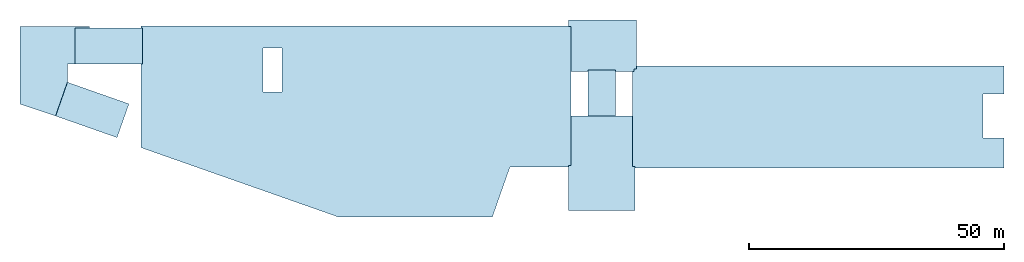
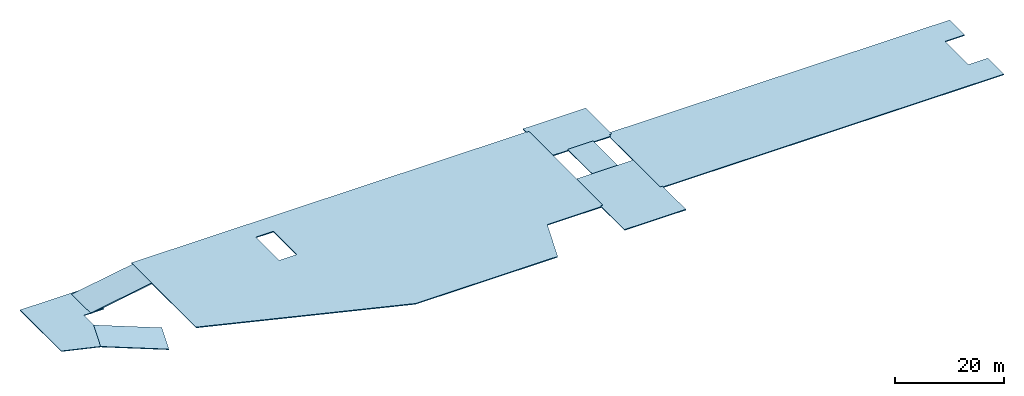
# One storey: 8 slabs.
"""IFC2X3 building model written with IfcOpenShell, lengths in millimetres."""

from ifc_helpers import new_model, si_unit, origin, place, context, project, spatial, faceted_brep, material, element, save


model = new_model("IFC2X3")

# Units and contexts
context_of_model = context(None, 3, precision=1e-05, world=origin())
ifc_project = project(units=[si_unit("LENGTHUNIT", "METRE", prefix="MILLI")], contexts=[context_of_model])

# Building, storey
building = spatial("IfcBuilding", under=ifc_project, Name="Building", CompositionType="ELEMENT")
storey = spatial("IfcBuildingStorey", under=building, Name="FL1-PLT", CompositionType="ELEMENT")

# Slabs
ifc_material_1 = material(Name="C4000")
slab_1_placement = place(None, origin())
element("IfcSlab", 1, at=slab_1_placement, inside=storey, material=ifc_material_1, Name="Floor21", PredefinedType="FLOOR", context=context_of_model, shape_type="Brep", body=[
    faceted_brep([(12000.0, 8100.0, -203.2), (12000.0, 18000.0, -203.2), (12000.0, 18000.0, 0.0), (12000.0, 8100.0, 0.0), (0.0, 18000.0, -203.2), (0.0, 18000.0, 0.0), (0.0, 8300.0, -203.2), (0.0, 8300.0, 0.0), (-500.0, 8300.0, -203.2), (-500.0, 8300.0, 0.0), (-500.0, -500.0, -203.2), (-500.0, -500.0, 0.0), (12500.0, -500.0, -203.2), (12500.0, -500.0, 0.0), (12500.0, 8100.0, -203.2), (12500.0, 8100.0, 0.0)], [[[0, 1, 2, 3]], [[1, 4, 5, 2]], [[4, 6, 7, 5]], [[6, 8, 9, 7]], [[8, 10, 11, 9]], [[10, 12, 13, 11]], [[12, 14, 15, 13]], [[14, 0, 3, 15]], [[3, 2, 5, 7, 9, 11, 13, 15]], [[0, 14, 12, 10, 8, 6, 4, 1]]]),
])
ifc_material_2 = material(Name="C4000")
slab_2_placement = place(None, origin())
element("IfcSlab", 2, at=slab_2_placement, inside=storey, material=ifc_material_2, Name="Floor22", PredefinedType="FLOOR", context=context_of_model, shape_type="Brep", body=[
    faceted_brep([(-500.0, 36804.8, -203.2), (-500.0, 35542.8, -203.2), (-500.0, 35542.8, 0.0), (-500.0, 36804.8, 0.0), (0.0, 35542.8, -203.2), (0.0, 35542.8, 0.0), (0.0, 26695.2, -203.2), (0.0, 26695.2, 0.0), (12304.8, 26695.2, -203.2), (12304.8, 26695.2, 0.0), (12304.8, 27195.2, -203.2), (12304.8, 27195.2, 0.0), (12804.8, 27195.2, -203.2), (12804.8, 27195.2, 0.0), (12804.8, 36804.8, -203.2), (12804.8, 36804.8, 0.0)], [[[0, 1, 2, 3]], [[1, 4, 5, 2]], [[4, 6, 7, 5]], [[6, 8, 9, 7]], [[8, 10, 11, 9]], [[10, 12, 13, 11]], [[12, 14, 15, 13]], [[14, 0, 3, 15]], [[3, 2, 5, 7, 9, 11, 13, 15]], [[0, 14, 12, 10, 8, 6, 4, 1]]]),
])
ifc_material_3 = material(Name="C4000")
slab_3_placement = place(None, origin())
element("IfcSlab", 3, at=slab_3_placement, inside=storey, material=ifc_material_3, Name="Floor23", PredefinedType="FLOOR", context=context_of_model, shape_type="Brep", body=[
    faceted_brep([(3300.0, 18000.0, -203.2), (8700.0, 18000.0, -203.2), (8700.0, 18000.0, 0.0), (3300.0, 18000.0, 0.0), (8700.0, 27000.0, -203.2), (8700.0, 27000.0, 0.0), (3300.0, 27000.0, -203.2), (3300.0, 27000.0, 0.0)], [[[0, 1, 2, 3]], [[1, 4, 5, 2]], [[4, 6, 7, 5]], [[6, 0, 3, 7]], [[3, 2, 5, 7]], [[0, 6, 4, 1]]]),
])
ifc_material_4 = material(Name="C4000")
slab_4_placement = place(None, origin())
element("IfcSlab", 4, at=slab_4_placement, inside=storey, material=ifc_material_4, Name="Floor24", PredefinedType="FLOOR", context=context_of_model, shape_type="Brep", body=[
    faceted_brep([(12000.0, 7800.0, -203.2), (84804.8, 7800.0, -203.2), (84804.8, 7800.0, 0.0), (12000.0, 7800.0, 0.0), (84804.8, 13700.0, -203.2), (84804.8, 13700.0, 0.0), (80650.0, 13700.0, -203.2), (80650.0, 13700.0, 0.0), (80650.0, 22300.0, -203.2), (80650.0, 22300.0, 0.0), (84804.8, 22300.0, -203.2), (84804.8, 22300.0, 0.0), (84809.6, 27800.0, -203.2), (84809.6, 27800.0, 2.22045e-13), (12004.8, 27800.0, -203.2), (12004.8, 27800.0, 2.22045e-13), (12000.0, 18000.0, -203.2), (12000.0, 18000.0, 0.0)], [[[0, 1, 2, 3]], [[1, 4, 5, 2]], [[4, 6, 7, 5]], [[6, 8, 9, 7]], [[8, 10, 11, 9]], [[10, 12, 13, 11]], [[12, 14, 15, 13]], [[14, 16, 17, 15]], [[16, 0, 3, 17]], [[3, 2, 5, 7, 9, 11, 13, 15, 17]], [[0, 16, 14, 12, 10, 8, 6, 4, 1]]]),
])
ifc_material_5 = material(Name="C4000")
slab_5_placement = place(None, origin())
element("IfcSlab", 5, at=slab_5_placement, inside=storey, material=ifc_material_5, Name="Floor25", PredefinedType="FLOOR", context=context_of_model, shape_type="Brep", body=[
    faceted_brep([(-15444.1, -1797.66, -203.2), (-12000.0, 8000.0, -203.2), (-12000.0, 8000.0, 0.0), (-15444.1, -1797.66, 0.0), (0.0, 8000.0, -203.2), (0.0, 8000.0, 0.0), (0.0, 35618.8, -203.2), (0.0, 35618.8, -2.22045e-13), (-84279.4, 35618.8, -203.2), (-84279.4, 35618.8, 0.0), (-84331.5, 11812.0, -203.2), (-84331.5, 11812.0, -9.15934e-13), (-45608.7, -1799.67, -203.2), (-45608.7, -1799.67, -9.15934e-13), (-56650.0, 22700.0, -203.2), (-60418.0, 22700.0, -203.2), (-60418.0, 22700.0, 0.0), (-56650.0, 22700.0, 0.0), (-60418.0, 31300.0, -203.2), (-60418.0, 31300.0, 0.0), (-56650.0, 31300.0, -203.2), (-56650.0, 31300.0, 0.0)], [[[0, 1, 2, 3]], [[1, 4, 5, 2]], [[4, 6, 7, 5]], [[6, 8, 9, 7]], [[8, 10, 11, 9]], [[10, 12, 13, 11]], [[12, 0, 3, 13]], [[14, 15, 16, 17]], [[15, 18, 19, 16]], [[18, 20, 21, 19]], [[20, 14, 17, 21]], [[3, 2, 5, 7, 9, 11, 13], [17, 16, 19, 21]], [[0, 12, 10, 8, 6, 4, 1], [14, 20, 18, 15]]]),
])
ifc_material_6 = material(Name="C4000")
slab_6_placement = place(None, origin())
element("IfcSlab", 6, at=slab_6_placement, inside=storey, material=ifc_material_6, Name="Wall147", PredefinedType="FLOOR", context=context_of_model, shape_type="Brep", body=[
    faceted_brep([(-101016.9, 17995.4, -2250.0), (-108000.0, 20343.0, -2250.0), (-108000.0, 20343.0, -2402.4), (-101016.9, 17995.4, -2402.4), (-108000.0, 35542.8, -2250.0), (-108000.0, 35542.8, -2402.4), (-94425.2, 35542.8, -2250.0), (-94425.2, 35542.8, -2402.4), (-94425.2, 28195.2, -2250.0), (-94425.2, 28195.2, -2402.4), (-98695.2, 28195.2, -2250.0), (-98695.2, 28195.2, -2402.4), (-98695.2, 24599.3, -2250.0), (-98695.2, 24599.3, -2402.4)], [[[0, 1, 2, 3]], [[1, 4, 5, 2]], [[4, 6, 7, 5]], [[6, 8, 9, 7]], [[8, 10, 11, 9]], [[10, 12, 13, 11]], [[12, 0, 3, 13]], [[3, 2, 5, 7, 9, 11, 13]], [[0, 12, 10, 8, 6, 4, 1]]]),
])
ifc_material_7 = material(Name="C4000")
slab_7_placement = place(None, origin())
element("IfcSlab", 7, at=slab_7_placement, inside=storey, material=ifc_material_7, Name="Wall148", PredefinedType="FLOOR", context=context_of_model, shape_type="Brep", body=[
    faceted_brep([(-98695.2, 24599.3, -2250.0), (-86657.1, 20367.1, -4500.0), (-86682.1, 20375.9, -4650.08), (-98720.2, 24608.1, -2400.08), (-88978.6, 13763.7, -4500.0), (-89003.6, 13772.5, -4650.08), (-101016.9, 17995.4, -2250.0), (-101041.9, 18004.2, -2400.08)], [[[0, 1, 2, 3]], [[1, 4, 5, 2]], [[4, 6, 7, 5]], [[6, 0, 3, 7]], [[3, 2, 5, 7]], [[0, 6, 4, 1]]]),
])
ifc_material_8 = material(Name="C4000")
slab_8_placement = place(None, origin())
element("IfcSlab", 8, at=slab_8_placement, inside=storey, material=ifc_material_8, Name="Wall149", PredefinedType="FLOOR", context=context_of_model, shape_type="Brep", body=[
    faceted_brep([(-97260.4, 28195.2, -2250.0), (-97260.4, 35195.2, -2250.0), (-97217.9, 35195.2, -2500.42), (-97217.9, 28195.2, -2500.42), (-84000.0, 35195.2, 0.0), (-83957.5, 35195.2, -250.421), (-84000.0, 28195.2, 0.0), (-83957.5, 28195.2, -250.421)], [[[0, 1, 2, 3]], [[1, 4, 5, 2]], [[4, 6, 7, 5]], [[6, 0, 3, 7]], [[3, 2, 5, 7]], [[0, 6, 4, 1]]]),
])

save(model, "model.ifc")
